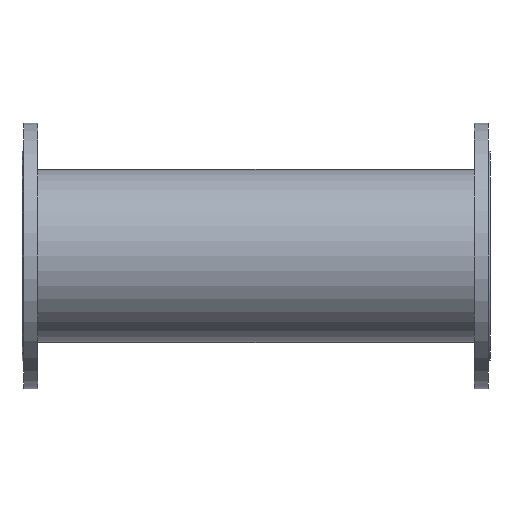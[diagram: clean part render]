
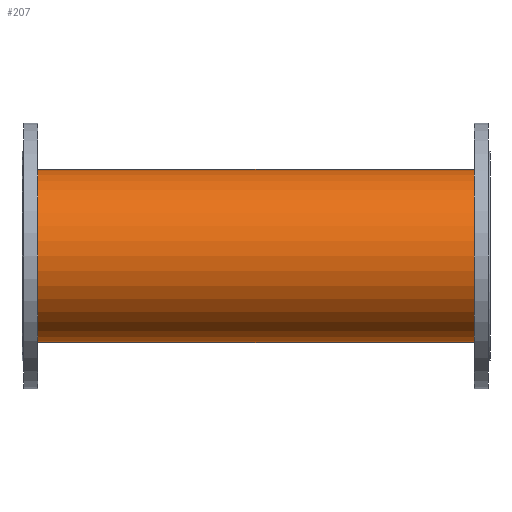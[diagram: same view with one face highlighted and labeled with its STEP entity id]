
A CAD part, front view. The second image highlights one B-rep face of the part: STEP entity #207.
In plain terms, the highlighted cylindrical face has radius 111 mm (diameter 222 mm), a partial arc.
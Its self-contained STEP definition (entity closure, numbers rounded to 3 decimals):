
#207=ADVANCED_FACE('',(#434),#435,.T.);
#434=FACE_OUTER_BOUND('',#693,.T.);
#435=CYLINDRICAL_SURFACE('',#694,111.0);
#693=EDGE_LOOP('',(#1120,#1121,#1122,#1123));
#694=AXIS2_PLACEMENT_3D('',#1124,#1125,#1126);
#1120=ORIENTED_EDGE('',*,*,#1476,.T.);
#1121=ORIENTED_EDGE('',*,*,#1494,.T.);
#1122=ORIENTED_EDGE('',*,*,#1478,.T.);
#1123=ORIENTED_EDGE('',*,*,#1525,.T.);
#1124=CARTESIAN_POINT('',(10.0,0.0,0.));
#1125=DIRECTION('',(1.0,0.0,0.));
#1126=DIRECTION('',(0.,0.0,-1.0));
#1476=EDGE_CURVE('',#1781,#1782,#1783,.T.);
#1478=EDGE_CURVE('',#1786,#1784,#1787,.T.);
#1494=EDGE_CURVE('',#1782,#1786,#1807,.T.);
#1525=EDGE_CURVE('',#1784,#1781,#1846,.T.);
#1781=VERTEX_POINT('',#2134);
#1782=VERTEX_POINT('',#2135);
#1783=LINE('',#2136,#2137);
#1784=VERTEX_POINT('',#2138);
#1786=VERTEX_POINT('',#2140);
#1787=LINE('',#2141,#2142);
#1807=CIRCLE('',#2168,111.0);
#1846=CIRCLE('',#2217,111.0);
#2134=CARTESIAN_POINT('',(10.0,0.0,-111.0));
#2135=CARTESIAN_POINT('',(590.0,0.0,-111.0));
#2136=CARTESIAN_POINT('',(10.0,0.,-111.0));
#2137=VECTOR('',#2534,1.0);
#2138=CARTESIAN_POINT('',(10.,0.,111.0));
#2140=CARTESIAN_POINT('',(590.0,0.,111.0));
#2141=CARTESIAN_POINT('',(10.,0.,111.0));
#2142=VECTOR('',#2538,1.0);
#2168=AXIS2_PLACEMENT_3D('',#2557,#2558,#2559);
#2217=AXIS2_PLACEMENT_3D('',#2591,#2592,#2593);
#2534=DIRECTION('',(1.0,0.0,0.));
#2538=DIRECTION('',(-1.0,-0.0,0.));
#2557=CARTESIAN_POINT('',(590.0,0.0,0.));
#2558=DIRECTION('',(-1.0,-0.0,0.));
#2559=DIRECTION('',(0.,0.0,-1.0));
#2591=CARTESIAN_POINT('',(10.0,0.0,0.));
#2592=DIRECTION('',(1.0,0.0,0.));
#2593=DIRECTION('',(0.,0.0,-1.0));
